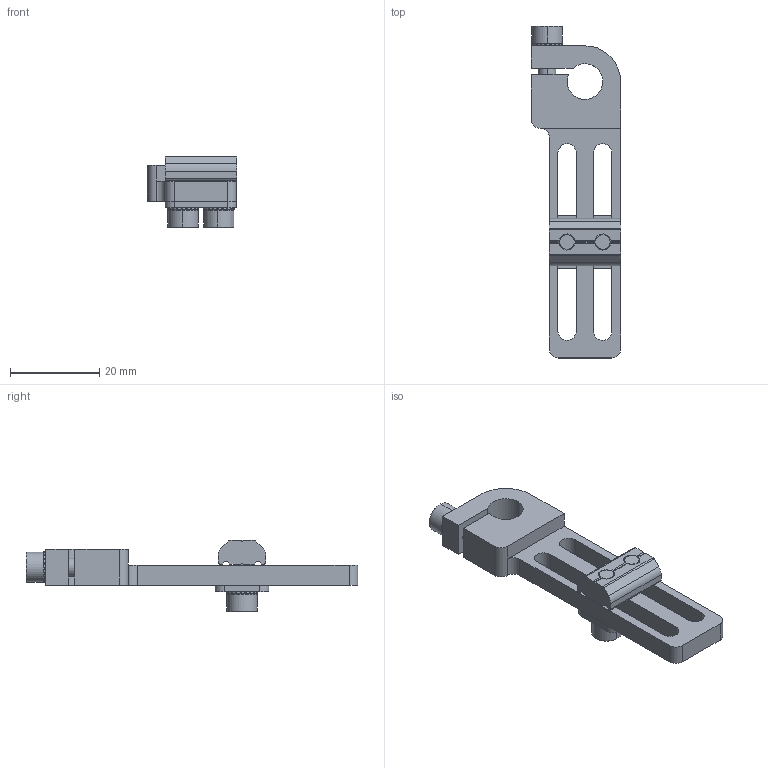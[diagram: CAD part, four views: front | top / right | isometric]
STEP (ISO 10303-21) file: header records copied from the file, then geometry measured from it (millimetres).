
FILE_DESCRIPTION (( 'STEP AP214' ), '1' );
FILE_NAME ('SMBE1-0840T.STEP', '2022-12-14T01:32:48', ( '' ), ( '' ), 'SwSTEP 2.0', 'SolidWorks 2018', '' );
FILE_SCHEMA (( 'AUTOMOTIVE_DESIGN' ));
Length unit declared in the file: millimetre
Products named in the file (1): SMBE1-0840T
Bounding box: 20 x 74.45 x 16 mm (x, y, z)
Volume: 6043.3 mm3; surface area: 6184.6 mm2
Topology: 9 solids, 9 shells, 649 faces, 1883 edges, 1249 vertices
Faces by surface type: plane 561, cylinder 70, cone 18
Entity records: 28932 total; most frequent: CARTESIAN_POINT 3974, DIRECTION 3781, ORIENTED_EDGE 3766, EDGE_CURVE 1883, AXIS2_PLACEMENT_3D 1280, VERTEX_POINT 1249, VECTOR 1221, LINE 1221
